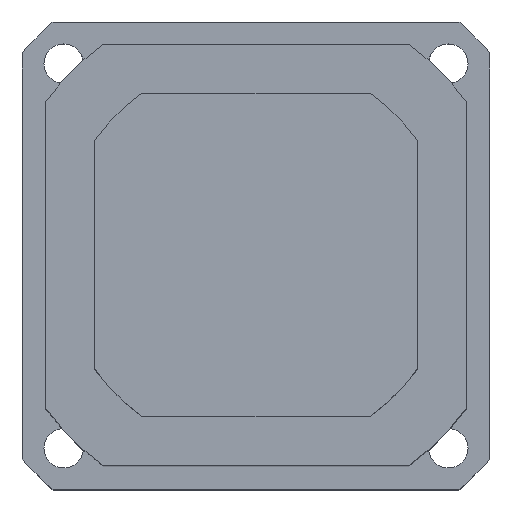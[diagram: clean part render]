
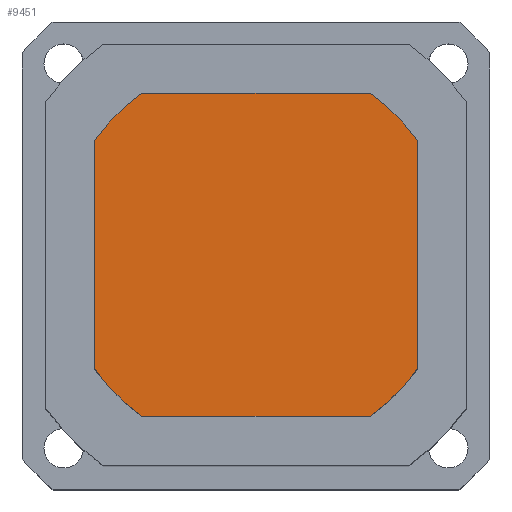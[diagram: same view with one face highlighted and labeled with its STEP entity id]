
A CAD part, top view. The second image highlights one B-rep face of the part: STEP entity #9451.
In plain terms, the highlighted planar face has unit normal (0, 0, 1).
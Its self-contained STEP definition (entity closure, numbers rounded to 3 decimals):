
#2292=CIRCLE('',#10334,60.);
#2293=CIRCLE('',#10336,60.);
#2294=CIRCLE('',#10338,60.);
#2295=CIRCLE('',#10340,60.);
#3236=VERTEX_POINT('',#14723);
#3237=VERTEX_POINT('',#14725);
#3238=VERTEX_POINT('',#14729);
#3239=VERTEX_POINT('',#14731);
#3244=VERTEX_POINT('',#14747);
#3245=VERTEX_POINT('',#14749);
#3246=VERTEX_POINT('',#14753);
#3247=VERTEX_POINT('',#14755);
#4143=LINE('',#14724,#11369);
#4146=LINE('',#14730,#11372);
#4149=LINE('',#14748,#11375);
#4152=LINE('',#14754,#11378);
#5137=EDGE_CURVE('',#3237,#3236,#4143,.T.);
#5140=EDGE_CURVE('',#3239,#3238,#4146,.T.);
#5147=EDGE_CURVE('',#3245,#3244,#4149,.T.);
#5150=EDGE_CURVE('',#3247,#3246,#4152,.T.);
#5152=EDGE_CURVE('',#3239,#3246,#2292,.T.);
#5153=EDGE_CURVE('',#3245,#3238,#2293,.T.);
#5154=EDGE_CURVE('',#3237,#3244,#2294,.T.);
#5155=EDGE_CURVE('',#3247,#3236,#2295,.T.);
#7246=ORIENTED_EDGE('',*,*,#5137,.T.);
#7247=ORIENTED_EDGE('',*,*,#5155,.F.);
#7248=ORIENTED_EDGE('',*,*,#5150,.T.);
#7249=ORIENTED_EDGE('',*,*,#5152,.F.);
#7250=ORIENTED_EDGE('',*,*,#5140,.T.);
#7251=ORIENTED_EDGE('',*,*,#5153,.F.);
#7252=ORIENTED_EDGE('',*,*,#5147,.T.);
#7253=ORIENTED_EDGE('',*,*,#5154,.F.);
#8269=EDGE_LOOP('',(#7246,#7247,#7248,#7249,#7250,#7251,#7252,#7253));
#8917=FACE_BOUND('',#8269,.T.);
#9451=ADVANCED_FACE('',(#8917),#11700,.F.);
#10334=AXIS2_PLACEMENT_3D('',#14758,#17938,#17939);
#10336=AXIS2_PLACEMENT_3D('',#14760,#17942,#17943);
#10338=AXIS2_PLACEMENT_3D('',#14762,#17946,#17947);
#10340=AXIS2_PLACEMENT_3D('',#14764,#17950,#17951);
#10341=AXIS2_PLACEMENT_3D('',#14765,#17952,$);
#11369=VECTOR('',#17908,1.);
#11372=VECTOR('',#17912,1.);
#11375=VECTOR('',#17930,1.);
#11378=VECTOR('',#17934,1.);
#11700=PLANE('',#10341);
#14723=CARTESIAN_POINT('',(-49.,-34.627,45.));
#14724=CARTESIAN_POINT('',(-49.,34.627,45.));
#14725=CARTESIAN_POINT('',(-49.,34.627,45.));
#14729=CARTESIAN_POINT('',(49.,34.627,45.));
#14730=CARTESIAN_POINT('',(49.,-34.627,45.));
#14731=CARTESIAN_POINT('',(49.,-34.627,45.));
#14747=CARTESIAN_POINT('',(-34.627,49.,45.));
#14748=CARTESIAN_POINT('',(34.627,49.,45.));
#14749=CARTESIAN_POINT('',(34.627,49.,45.));
#14753=CARTESIAN_POINT('',(34.627,-49.,45.));
#14754=CARTESIAN_POINT('',(-34.627,-49.,45.));
#14755=CARTESIAN_POINT('',(-34.627,-49.,45.));
#14758=CARTESIAN_POINT('',(0.,0.,45.));
#14760=CARTESIAN_POINT('',(0.,0.,45.));
#14762=CARTESIAN_POINT('',(0.,0.,45.));
#14764=CARTESIAN_POINT('',(0.,0.,45.));
#14765=CARTESIAN_POINT('',(0.,0.,45.));
#17908=DIRECTION('',(0.,-1.,0.));
#17912=DIRECTION('',(0.,1.,0.));
#17930=DIRECTION('',(-1.,0.,0.));
#17934=DIRECTION('',(1.,0.,0.));
#17938=DIRECTION('',(0.,0.,-1.));
#17939=DIRECTION('',(-60.,0.,0.));
#17942=DIRECTION('',(0.,0.,-1.));
#17943=DIRECTION('',(-60.,0.,0.));
#17946=DIRECTION('',(0.,0.,-1.));
#17947=DIRECTION('',(-60.,0.,0.));
#17950=DIRECTION('',(0.,0.,-1.));
#17951=DIRECTION('',(-60.,0.,0.));
#17952=DIRECTION('',(0.,0.,-1.));
